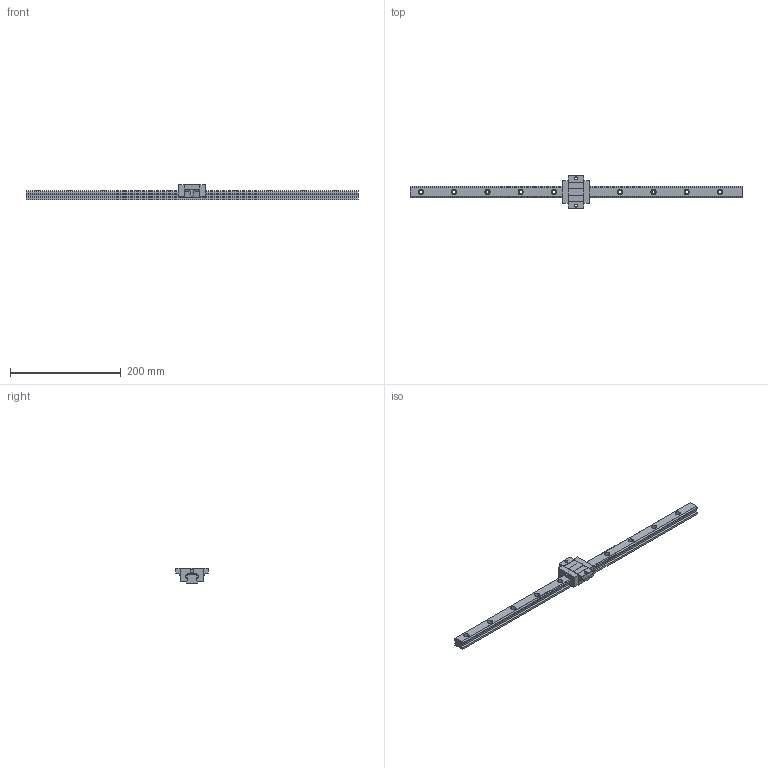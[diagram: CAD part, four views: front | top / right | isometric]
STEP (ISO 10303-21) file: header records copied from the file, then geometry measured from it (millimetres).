
FILE_DESCRIPTION (( 'STEP AP203' ), '1' );
FILE_NAME ('TRS20FS-XN.STEP', '2023-02-08T08:57:00', ( '' ), ( '' ), 'SwSTEP 2.0', 'SolidWorks 2019', '' );
FILE_SCHEMA (( 'CONFIG_CONTROL_DESIGN' ));
Length unit declared in the file: millimetre
Products named in the file (1): TRS20FS-XN
Bounding box: 600 x 59 x 28 mm (x, y, z)
Volume: 207142.2 mm3; surface area: 62781 mm2
Topology: 4 solids, 4 shells, 182 faces, 478 edges, 312 vertices
Faces by surface type: plane 90, cylinder 88, sphere 4
Entity records: 5935 total; most frequent: CARTESIAN_POINT 1215, DIRECTION 988, ORIENTED_EDGE 948, EDGE_CURVE 474, AXIS2_PLACEMENT_3D 345, VERTEX_POINT 312, VECTOR 298, LINE 298
